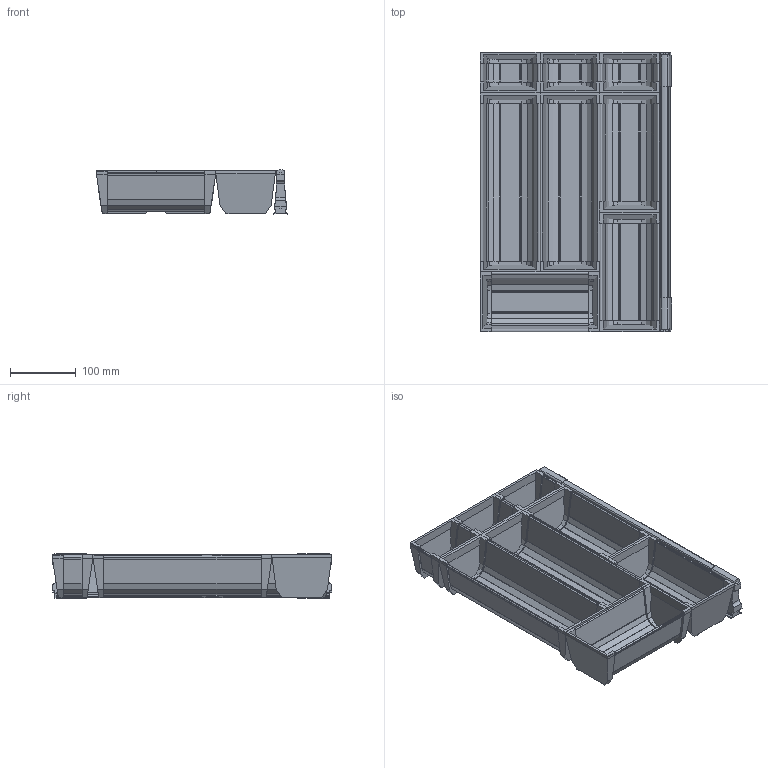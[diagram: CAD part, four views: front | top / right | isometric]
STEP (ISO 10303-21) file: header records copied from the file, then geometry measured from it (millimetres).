
FILE_DESCRIPTION (( 'STEP AP214' ), '1' );
FILE_NAME ('Magic-Sorto_B3_NL-450.STEP', '2010-08-17T11:54:43', ( 'grass' ), ( '' ), 'SwSTEP 2.0', 'SolidWorks 2010', '' );
FILE_SCHEMA (( 'AUTOMOTIVE_DESIGN' ));
Length unit declared in the file: millimetre
Products named in the file (1): Magic-Sorto_B3_NL-450
Bounding box: 290.01 x 423.5 x 67.5 mm (x, y, z)
Volume: 831886 mm3; surface area: 686048.6 mm2
Topology: 9 solids, 9 shells, 1021 faces, 2961 edges, 1974 vertices
Faces by surface type: plane 697, cylinder 324
Entity records: 44992 total; most frequent: CARTESIAN_POINT 6287, ORIENTED_EDGE 5922, DIRECTION 5553, EDGE_CURVE 2961, LINE 2265, VECTOR 2265, VERTEX_POINT 1974, AXIS2_PLACEMENT_3D 1644
